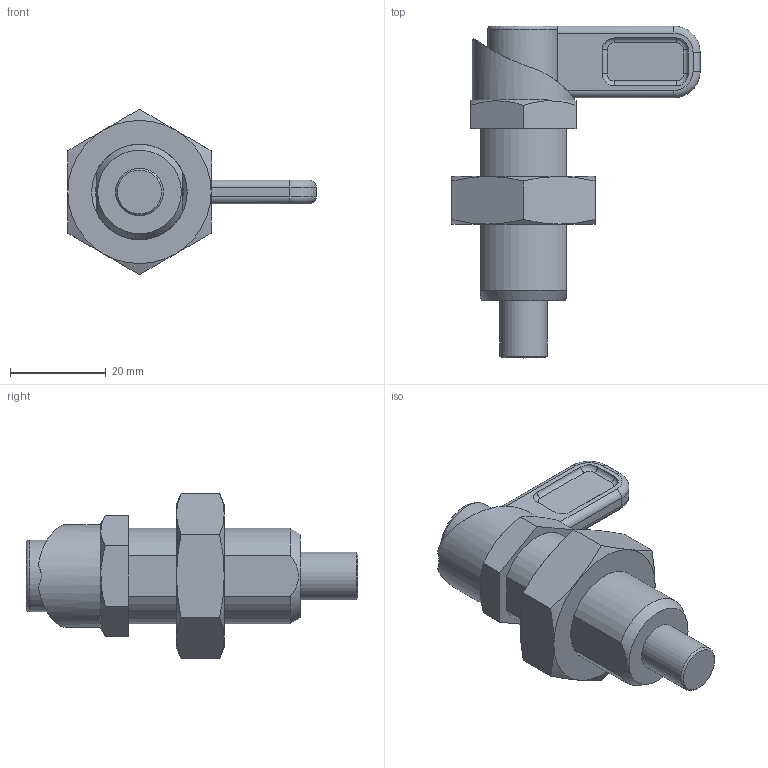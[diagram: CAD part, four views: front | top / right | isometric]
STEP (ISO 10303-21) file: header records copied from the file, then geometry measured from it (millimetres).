
FILE_DESCRIPTION( ( 'STEP AP203' ), '1' );
FILE_NAME( 'C:/Temp/Ganter_Step_05_03_2020/data/3_1/gn_612.8/gn612_8_ak/Indexing plunger GN 612.8-10-M20x1,5-AK (deactivated).stp', '2020-03-12T09:12:43', ( 'License CC BY-ND 4.0' ), ( 'CADENAS' ), ' ', 'PARTsolutions', ' ' );
FILE_SCHEMA( ( 'CONFIG_CONTROL_DESIGN' ) );
Length unit declared in the file: millimetre
Products named in the file (4): Indexing plunger GN 612.8-10-M20x1,5-AK (deactivated); _Indexing plunger GN 612.8-10-M20x1,5-AK (1)_2; _Indexing plunger GN 612.8-10-M20x1,5-AK (1)_1; _Indexing plunger GN 612.8-10-M20x1,5-AK (1)_3
Assembly tree (3 placements, depth 2):
  Indexing plunger GN 612.8-10-M20x1,5-AK (deactivated)
    _Indexing plunger GN 612.8-10-M20x1,5-AK (1)_2
    _Indexing plunger GN 612.8-10-M20x1,5-AK (1)_1
    _Indexing plunger GN 612.8-10-M20x1,5-AK (1)_3
Bounding box: 52 x 69.5 x 34.64 mm (x, y, z)
Volume: 24846.4 mm3; surface area: 11997.2 mm2
Topology: 3 solids, 3 shells, 95 faces, 215 edges, 135 vertices
Faces by surface type: plane 33, cylinder 32, cone 17, torus 13
Full cylindrical faces by diameter (mm): 10 x4, 11 x2, 15 x1, 15.5 x1, 18.376 x1, 21.5 x1
Entity records: 3150 total; most frequent: CARTESIAN_POINT 971, DIRECTION 436, ORIENTED_EDGE 396, EDGE_CURVE 198, AXIS2_PLACEMENT_3D 188, VERTEX_POINT 132, EDGE_LOOP 122, FACE_OUTER_BOUND 104
